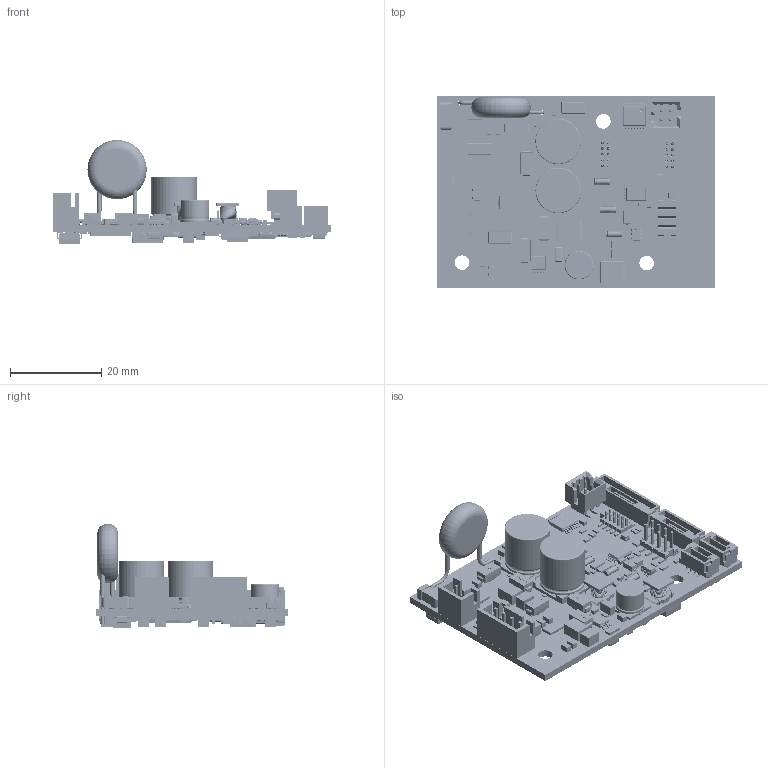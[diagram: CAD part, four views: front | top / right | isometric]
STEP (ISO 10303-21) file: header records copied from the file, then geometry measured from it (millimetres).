
FILE_DESCRIPTION(('Open CASCADE Model'),'2;1');
FILE_NAME('Open CASCADE Shape Model','2019-08-27T15:06:15',('Author'),( 'Open CASCADE'),'Open CASCADE STEP processor 6.5','Open CASCADE 6.5' ,'Unknown');
FILE_SCHEMA(('AUTOMOTIVE_DESIGN { 1 0 10303 214 1 1 1 1 }'));
Length unit declared in the file: millimetre
Products named in the file (355): PCB; Board; R506; cr0603; R414; R407; QDN600; User_Library-SOT363-2; R406; C100; SMD_Capacitors_0805_T1e25; R224; R223; Q200; DDC0006A; BODY_MK06A; LEAD_MK06A; C217; CAPC1608X09; C216; C215; IC401; LQFP64_Grid_0_5; User_Library-LQFP64_Grid_0.5_LQFP64_Koerper_2; User_Library-LQFP64_Grid_0.5_LQFP_PIN_2; IC600; User_Library-TSSOP14-1; R201; X4; 878325122; C426; C425; C424; C201; C202; C204; C206; C207; smd_1206_capacitor_t2e29; C208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
Assembly tree (682 placements, depth 4):
  PCB
    Board
    R506
      cr0603
    R414
      cr0603
    R407
      cr0603
    QDN600
      User_Library-SOT363-2
    R406
      cr0603
    C100
      SMD_Capacitors_0805_T1e25
    R224
      cr0603
    R223
      cr0603
    Q200
      DDC0006A
        BODY_MK06A
        LEAD_MK06A  x6
    C217
      CAPC1608X09
    C216
      CAPC1608X09
    C215
      CAPC1608X09
    IC401
      LQFP64_Grid_0_5
        User_Library-LQFP64_Grid_0.5_LQFP64_Koerper_2
        User_Library-LQFP64_Grid_0.5_LQFP_PIN_2  x64
    IC600
      User_Library-TSSOP14-1
    R201
      cr0603
    X4
      878325122
    C426
      CAPC1608X09
    C425
      CAPC1608X09
    C424
      CAPC1608X09
    C201
      CAPC1608X09
    C202
      CAPC1608X09
    C204
      SMD_Capacitors_0805_T1e25
    C206
      SMD_Capacitors_0805_T1e25
    C207
      smd_1206_capacitor_t2e29
    C208
      CAPC1608X09
    C210
      SMD_Capacitors_0805_T1e25
    C211
      CAPC1608X09
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Bounding box: 61 x 42 x 22.81 mm (x, y, z)
Volume: 9392 mm3; surface area: 17840.3 mm2
Topology: 488 solids, 488 shells, 18525 faces, 44722 edges, 25960 vertices
Faces by surface type: plane 9681, cylinder 5152, bspline 2994, torus 394, sphere 248, cone 56
Full cylindrical faces by diameter (mm): 0.95 x2, 1.016 x6, 3.2 x3
Entity records: 368347 total; most frequent: CARTESIAN_POINT 134528, DIRECTION 36132, LINE 22401, VECTOR 22401, ORIENTED_EDGE 21852, PCURVE 21852, DEFINITIONAL_REPRESENTATION 21852, EDGE_CURVE 10926
